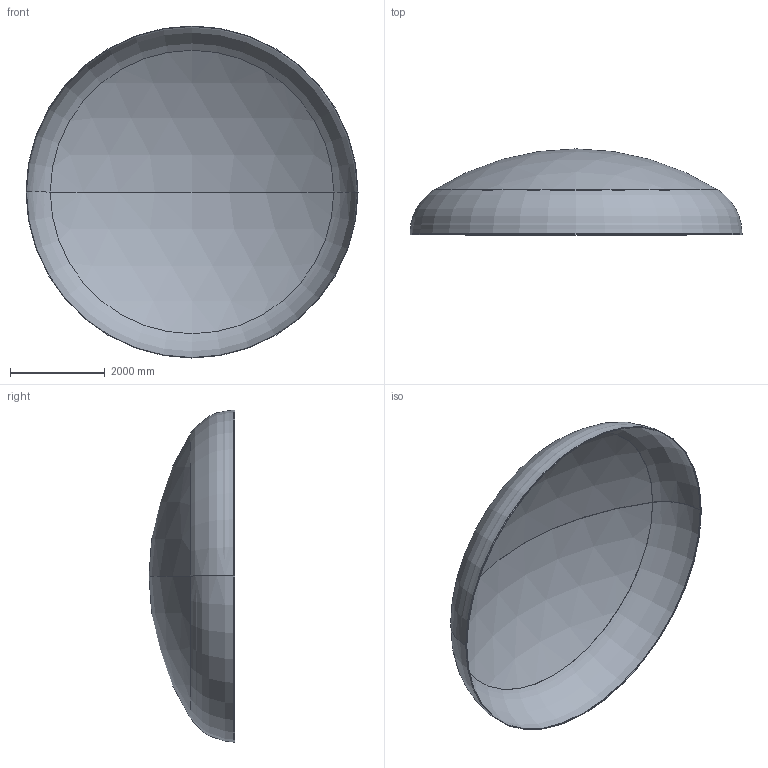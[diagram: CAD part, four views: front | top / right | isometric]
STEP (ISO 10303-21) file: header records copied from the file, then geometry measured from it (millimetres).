
FILE_DESCRIPTION (( 'STEP AP203' ), '1' );
FILE_NAME ('DIN 28013 Korbbogenform_-_Boden DIN 28013 - 7000 x 25 - I - s=8.step', '2016-07-04T10:44:49', ( '' ), ( '' ), 'SwSTEP 2.0', 'SolidWorks 2013', '' );
FILE_SCHEMA (( 'CONFIG_CONTROL_DESIGN' ));
Length unit declared in the file: millimetre
Products named in the file (1): DIN 28013 Korbbogenform_-_Boden DIN 28013 - 7000 x 25 - I - s=8
Bounding box: 7000 x 1810.35 x 7000 mm (x, y, z)
Volume: 430354151.1 mm3; surface area: 107764355 mm2
Topology: 1 solids, 1 shells, 13 faces, 24 edges, 14 vertices
Faces by surface type: torus 4, cylinder 4, sphere 4, plane 1
Entity records: 407 total; most frequent: DIRECTION 72, CARTESIAN_POINT 52, ORIENTED_EDGE 48, AXIS2_PLACEMENT_3D 34, EDGE_CURVE 24, CIRCLE 20, EDGE_LOOP 14, VERTEX_POINT 14
